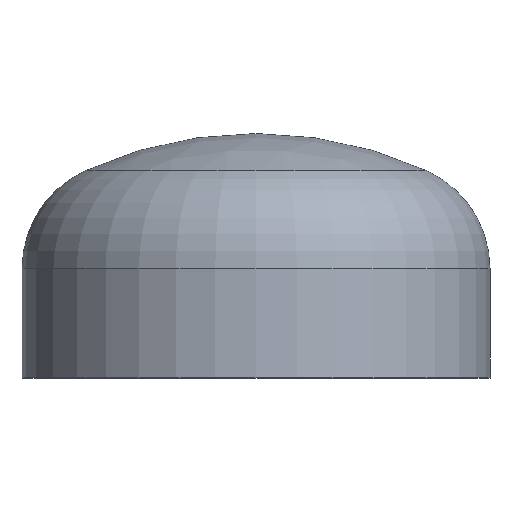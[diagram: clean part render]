
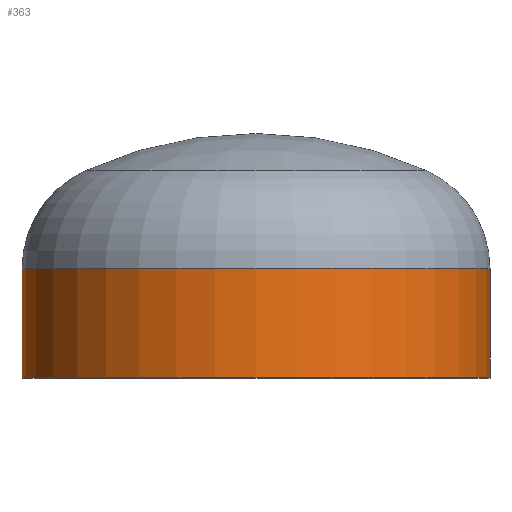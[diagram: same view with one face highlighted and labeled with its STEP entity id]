
A CAD part, top view. The second image highlights one B-rep face of the part: STEP entity #363.
In plain terms, the highlighted cylindrical face has radius 300 mm (diameter 600 mm), a partial arc.
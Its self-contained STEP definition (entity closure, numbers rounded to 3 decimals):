
#3 = AXIS2_PLACEMENT_3D ( 'NONE', #212, #120, #19 ) ;
#12 = VERTEX_POINT ( 'NONE', #296 ) ;
#19 = DIRECTION ( 'NONE',  ( 1., 0., 0. ) ) ;
#38 = VERTEX_POINT ( 'NONE', #274 ) ;
#40 = EDGE_CURVE ( 'NONE', #157, #38, #153, .T. ) ;
#72 = VERTEX_POINT ( 'NONE', #167 ) ;
#85 = ORIENTED_EDGE ( 'NONE', *, *, #40, .F. ) ;
#97 = AXIS2_PLACEMENT_3D ( 'NONE', #322, #326, #325 ) ;
#107 = ORIENTED_EDGE ( 'NONE', *, *, #321, .T. ) ;
#109 = AXIS2_PLACEMENT_3D ( 'NONE', #242, #235, #234 ) ;
#113 = EDGE_CURVE ( 'NONE', #12, #157, #389, .T. ) ;
#116 = ORIENTED_EDGE ( 'NONE', *, *, #113, .F. ) ;
#120 = DIRECTION ( 'NONE',  ( 0., -1., 0. ) ) ;
#124 = EDGE_CURVE ( 'NONE', #12, #72, #331, .T. ) ;
#144 = EDGE_LOOP ( 'NONE', ( #402, #107, #85, #116 ) ) ;
#153 = CIRCLE ( 'NONE', #109, 300. ) ;
#157 = VERTEX_POINT ( 'NONE', #392 ) ;
#167 = CARTESIAN_POINT ( 'NONE',  ( -300., 140., 0. ) ) ;
#212 = CARTESIAN_POINT ( 'NONE',  ( 0., 0., 0. ) ) ;
#228 = VECTOR ( 'NONE', #397, 1000. ) ;
#234 = DIRECTION ( 'NONE',  ( 1., 0., 0. ) ) ;
#235 = DIRECTION ( 'NONE',  ( 0., -1., 0. ) ) ;
#242 = CARTESIAN_POINT ( 'NONE',  ( 0., 0., 0. ) ) ;
#244 = CARTESIAN_POINT ( 'NONE',  ( 300., 0., 0. ) ) ;
#274 = CARTESIAN_POINT ( 'NONE',  ( -300., 0., 0. ) ) ;
#288 = LINE ( 'NONE', #399, #228 ) ;
#296 = CARTESIAN_POINT ( 'NONE',  ( 300., 140., 0. ) ) ;
#320 = VECTOR ( 'NONE', #341, 1000. ) ;
#321 = EDGE_CURVE ( 'NONE', #72, #38, #288, .T. ) ;
#322 = CARTESIAN_POINT ( 'NONE',  ( 0., 140., 0. ) ) ;
#324 = CYLINDRICAL_SURFACE ( 'NONE', #3, 300. ) ;
#325 = DIRECTION ( 'NONE',  ( 1., 0., 0. ) ) ;
#326 = DIRECTION ( 'NONE',  ( 0., -1., 0. ) ) ;
#331 = CIRCLE ( 'NONE', #97, 300. ) ;
#336 = FACE_OUTER_BOUND ( 'NONE', #144, .T. ) ;
#341 = DIRECTION ( 'NONE',  ( 0., -1., 0. ) ) ;
#363 = ADVANCED_FACE ( 'NONE', ( #336 ), #324, .T. ) ;
#389 = LINE ( 'NONE', #244, #320 ) ;
#392 = CARTESIAN_POINT ( 'NONE',  ( 300., 0., 0. ) ) ;
#397 = DIRECTION ( 'NONE',  ( 0., -1., 0. ) ) ;
#399 = CARTESIAN_POINT ( 'NONE',  ( -300., 0., 0. ) ) ;
#402 = ORIENTED_EDGE ( 'NONE', *, *, #124, .T. ) ;
